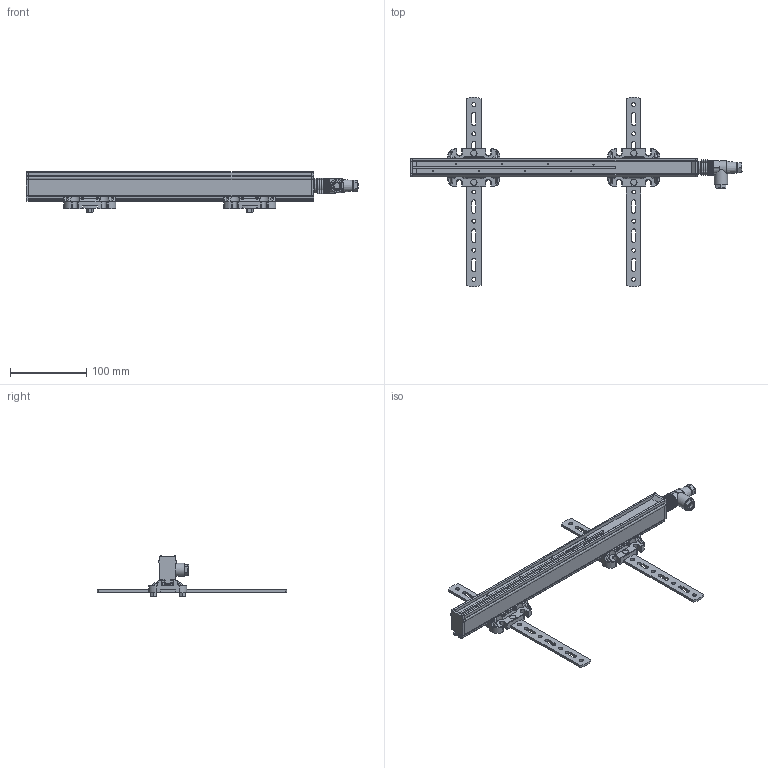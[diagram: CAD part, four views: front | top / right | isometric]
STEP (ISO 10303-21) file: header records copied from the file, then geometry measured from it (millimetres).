
FILE_DESCRIPTION(('ONLY FOR INFORMATION','HiCAD-Model','HiCAD-STEP-TRANSLATION'),'2;1');
FILE_NAME('Q:/##','2010-00-00',('D&E Department'),('Simco (Nederland) B.V.','Aalsvoort 74','NL-7241 MB LOCHEM','www.simco-ion.nl'),' HiCAD 2010, Step 1500.2 ','HiCAD 2010','confidential');
FILE_SCHEMA(('AUTOMOTIVE_DESIGN { 1 2 10303 214 0 1 1 1 }'));
Products named in the file (47): SIMCO_PERFORMAX_EASY_SPEED; PERFORMAX_EASY_SPEED; BAR; PROFILE; PIN; PIN0; PIN1; PIN2; PIN3; PIN4; PIN5; PIN6; POTTING; CONNECTOR_RA_BAUGRUPPE; EXTRUDED SOLID_5; EXTRUDED0SOLID05; REVOLVED SOLID_3; BRACKET_ASSEMBLY; BRACKET_2_2_2; STRIP; ISO 4017_M5X10_10_9_HEX_ HEAD; ISO040170M5X10010090HEX00HEAD; ISO 4032_M5_10_HEXAGON NUTS_0; ISO040320M50100HEXAGON0NUTS00; DIN 1441_5_5_ST_WASHERS FOR ST; DIN0144105050ST0WASHERS0FOR0ST; DIN 916_M 3X6_45H_SET SCREWS_0; DIN09160M03X6045H0SET0SCREWS00; DIN09160M03X6045H0SET0SCREWS000; DIN09160M03X6045H0SET0SCREWS001; BRACKET0ASSEMBLY; BRACKET020202; STRIP0; ISO040170M5X10010090HEX00HEAD0; ISO040170M5X10010090HEX00HEAD1; ISO040320M50100HEXAGON0NUTS000; ISO040320M50100HEXAGON0NUTS001; DIN0144105050ST0WASHERS0FOR0ST0; DIN0144105050ST0WASHERS0FOR0ST1; CONNECTOR STRAIGHT_BAUGRUPPE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
Assembly tree (46 placements, depth 5):
  SIMCO_PERFORMAX_EASY_SPEED
    PERFORMAX_EASY_SPEED
      BAR
        PROFILE
        PIN
        PIN0
        PIN1
        PIN2
        PIN3
        PIN4
        PIN5
        PIN6
        POTTING
      CONNECTOR_RA_BAUGRUPPE
        EXTRUDED SOLID_5
        EXTRUDED0SOLID05
          REVOLVED SOLID_3
      BRACKET_ASSEMBLY
        BRACKET_2_2_2
        STRIP
        ISO 4017_M5X10_10_9_HEX_ HEAD
        ISO040170M5X10010090HEX00HEAD
        ISO 4032_M5_10_HEXAGON NUTS_0
        ISO040320M50100HEXAGON0NUTS00
        DIN 1441_5_5_ST_WASHERS FOR ST
        DIN0144105050ST0WASHERS0FOR0ST
        DIN 916_M 3X6_45H_SET SCREWS_0
        DIN09160M03X6045H0SET0SCREWS00
        DIN09160M03X6045H0SET0SCREWS000
        DIN09160M03X6045H0SET0SCREWS001
      BRACKET0ASSEMBLY
        BRACKET020202
        STRIP0
        ISO040170M5X10010090HEX00HEAD0
        ISO040170M5X10010090HEX00HEAD1
        ISO040320M50100HEXAGON0NUTS000
        ISO040320M50100HEXAGON0NUTS001
        DIN0144105050ST0WASHERS0FOR0ST0
        DIN0144105050ST0WASHERS0FOR0ST1
        DIN09160M03X6045H0SET0SCREWS000
        DIN09160M03X6045H0SET0SCREWS001
        DIN09160M03X6045H0SET0SCREWS000
        DIN09160M03X6045H0SET0SCREWS001
      CONNECTOR STRAIGHT_BAUGRUPPE
        EXTRUDED SOLID_5_1
        EXTRUDED0SOLID0501
          REVOLVED0SOLID03
Bounding box: 434.09 x 247.49 x 52.78 mm (x, y, z)
Volume: 328033.8 mm3; surface area: 192138.1 mm2
Topology: 41 solids, 43 shells, 3805 faces, 9814 edges, 6451 vertices
Faces by surface type: plane 2194, cylinder 1292, torus 193, cone 66, bspline 52, sphere 8
Full cylindrical faces by diameter (mm): 0.797 x5, 1.48 x8, 2.387 x8, 3 x8, 4.019 x4, 5 x8, 5.156 x14, 5.5 x12, 7.866 x1, 7.9 x1, 7.965 x1, 8 x2, 8.065 x1, 8.1 x1, 9.957 x1, 10 x5, 10.952 x2, 11 x1, 12 x1, 12.067 x1, 12.944 x1, 13 x1, 14.935 x1, 15 x1, 16 x1, 16.7 x1, 16.773 x1, 16.926 x1, 17.3 x1, 18 x1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
Entity records: 248238 total; most frequent: CARTESIAN_POINT 106355, DIRECTION 19771, ORIENTED_EDGE 19082, EDGE_CURVE 9541, COLOUR_RGB 9265, PRESENTATION_STYLE_ASSIGNMENT 9265, OVER_RIDING_STYLED_ITEM 9227, CURVE_STYLE 8979
